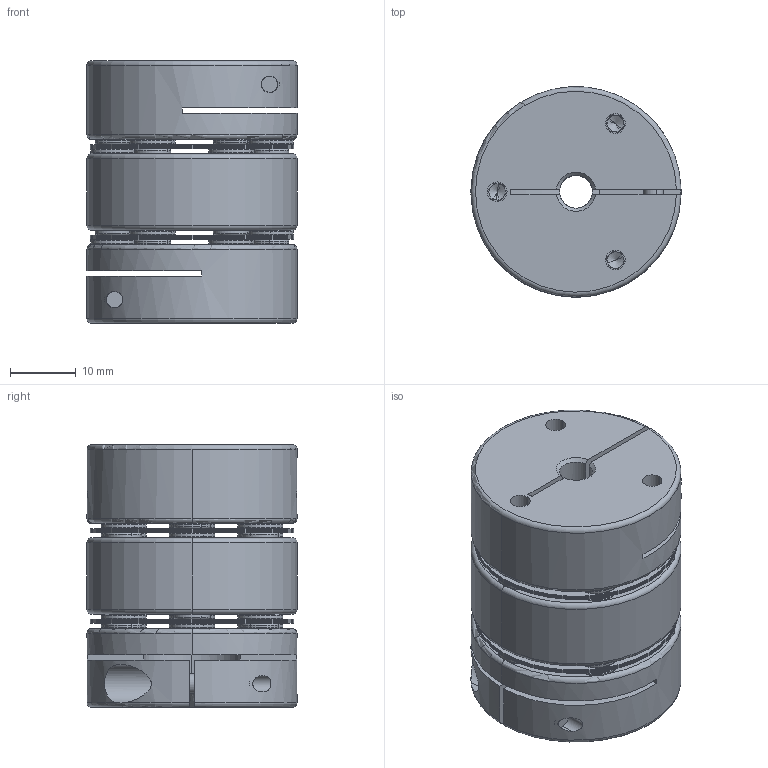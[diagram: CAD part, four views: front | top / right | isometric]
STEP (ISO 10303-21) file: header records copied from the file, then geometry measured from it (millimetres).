
FILE_DESCRIPTION (( 'STEP AP203' ), '1' );
FILE_NAME ('SADW-32C.STEP', '2020-09-10T08:57:08', ( '' ), ( '' ), 'SwSTEP 2.0', 'SolidWorks 2017', '' );
FILE_SCHEMA (( 'CONFIG_CONTROL_DESIGN' ));
Length unit declared in the file: metre
Products named in the file (1): SADW-32C
Bounding box: 32 x 32 x 40 mm (x, y, z)
Volume: 23074.9 mm3; surface area: 25325.8 mm2
Topology: 49 solids, 49 shells, 1124 faces, 2534 edges, 1502 vertices
Faces by surface type: cylinder 411, plane 311, cone 206, torus 190, bspline 6
Entity records: 32433 total; most frequent: CARTESIAN_POINT 6141, DIRECTION 6098, ORIENTED_EDGE 4996, AXIS2_PLACEMENT_3D 2555, EDGE_CURVE 2498, VERTEX_POINT 1502, CIRCLE 1436, EDGE_LOOP 1366
